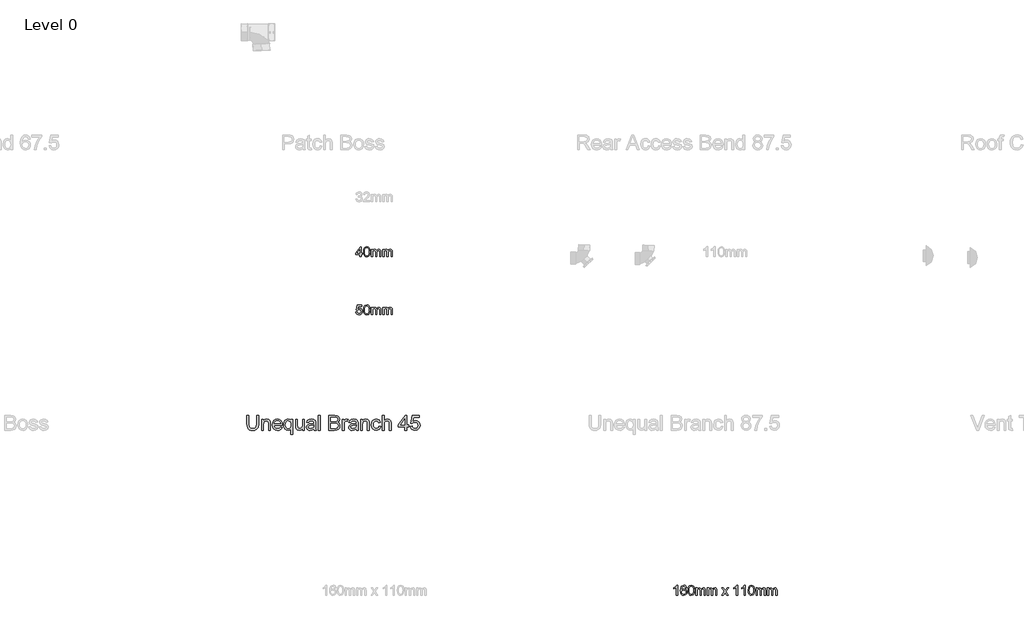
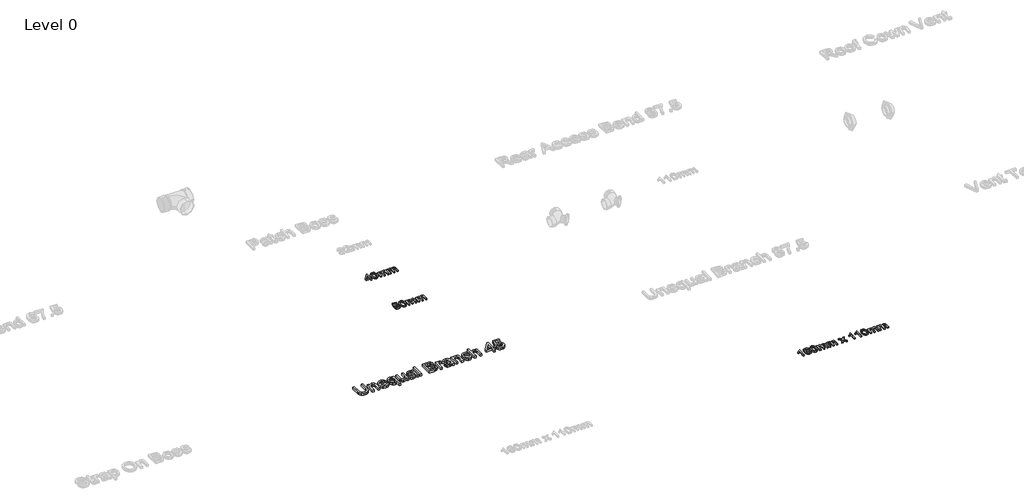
# One storey, part 6 of 28: 4 proxies.
"""IFC4 building model written with IfcOpenShell, lengths in millimetres."""

from ifc_helpers import new_model, si_unit, origin, origin_with_axes, place, context, project, spatial, polyline, outline, extrude, element, save

model = new_model("IFC4")

# Units and contexts
model_context = context("Model", 3, world=origin())
ifc_project = project(units=[si_unit("LENGTHUNIT", "METRE", prefix="MILLI")], contexts=[model_context])

# Site, building, storey
site = spatial("IfcSite", under=ifc_project)
building = spatial("IfcBuilding", under=site)
storey = spatial("IfcBuildingStorey", under=building, Name="Level 0", Elevation=0.0)

# Proxies
placement = place(None, origin())
element("IfcBuildingElementProxy", 1, Name="100mm Arial", ObjectType="100mm Arial", at=placement, inside=storey, context=model_context, shape_type="SweptSolid", body=[
    extrude(outline(polyline([(-6760.1908572, -162.2832696), (-6760.1908572, -139.2063465), (-6804.8062418, -139.2063465), (-6804.8062418, -126.8986542), (-6757.1139341, -65.3601927), (-6747.8831649, -65.3601927), (-6747.8831649, -126.8986542), (-6735.5754726, -126.8986542), (-6735.5754726, -139.2063465), (-6747.8831649, -139.2063465), (-6747.8831649, -162.2832696), (-6760.1908572, -162.2832696)]), holes=[polyline([(-6760.1908572, -126.8986542), (-6760.1908572, -88.8698081), (-6789.6620111, -126.8986542), (-6760.1908572, -126.8986542)])]), origin_with_axes(), (0.0, 0.0, 1.0), 15.0),
    extrude(outline(polyline([(-6724.8062418, -113.8457696), (-6721.1884534, -85.5164427), (-6710.4432611, -69.1823081), (-6692.4985495, -63.8217312), (-6678.1235495, -66.9948081), (-6668.1956649, -76.1414427), (-6662.4264341, -90.7087504), (-6660.1908572, -113.8457696), (-6663.772588, -142.0549042), (-6674.4817226, -158.4250965), (-6692.4985495, -163.8217312), (-6705.2870111, -161.4779812), (-6714.9985495, -154.4467312), (-6722.3543188, -137.7940869), (-6724.8062418, -113.8457696)]), holes=[polyline([(-6712.4985495, -113.8217312), (-6711.0562418, -133.1817071), (-6706.7293188, -144.386635), (-6700.2870111, -149.7321879), (-6692.4985495, -151.5140389), (-6684.710088, -149.7261783), (-6678.2677803, -144.3625965), (-6673.9408572, -133.151659), (-6672.4985495, -113.8217312), (-6673.8927803, -94.8974523), (-6678.0754726, -83.605385), (-6684.5057611, -77.9984139), (-6692.6427803, -76.1294235), (-6700.3471072, -77.7760581), (-6706.5370111, -82.7159619), (-6711.0081649, -94.7111542), (-6712.4985495, -113.8217312)])]), origin_with_axes(), (0.0, 0.0, 1.0), 15.0),
    extrude(outline(polyline([(-6646.3447034, -162.2832696), (-6646.3447034, -89.9755773), (-6634.0370111, -89.9755773), (-6634.0370111, -101.8746158), (-6625.5754726, -92.1270196), (-6613.5322034, -88.4371158), (-6601.2004726, -92.199135), (-6594.4216264, -102.7400004), (-6584.8182611, -92.0128369), (-6572.6908572, -88.4371158), (-6563.4390543, -89.9244956), (-6556.5971072, -94.386635), (-6552.3693428, -101.9437264), (-6550.960088, -112.7159619), (-6550.960088, -162.2832696), (-6563.2677803, -162.2832696), (-6563.2677803, -118.0044235), (-6564.4096072, -107.7279812), (-6568.5442226, -102.667885), (-6575.5754726, -100.7448081), (-6587.678838, -105.6726927), (-6592.4985495, -121.4659619), (-6592.4985495, -162.2832696), (-6604.8062418, -162.2832696), (-6604.8062418, -116.6342312), (-6607.6547995, -104.7111542), (-6616.9937418, -100.7448081), (-6626.1043188, -103.3890389), (-6632.1620111, -111.1294235), (-6634.0370111, -125.8169235), (-6634.0370111, -162.2832696), (-6646.3447034, -162.2832696)])), origin_with_axes(), (0.0, 0.0, 1.0), 15.0),
    extrude(outline(polyline([(-6532.4985495, -162.2832696), (-6532.4985495, -89.9755773), (-6520.1908572, -89.9755773), (-6520.1908572, -101.8746158), (-6511.7293188, -92.1270196), (-6499.6860495, -88.4371158), (-6487.3543188, -92.199135), (-6480.5754726, -102.7400004), (-6470.9721072, -92.0128369), (-6458.8447034, -88.4371158), (-6449.5929005, -89.9244956), (-6442.7509534, -94.386635), (-6438.5231889, -101.9437264), (-6437.1139341, -112.7159619), (-6437.1139341, -162.2832696), (-6449.4216264, -162.2832696), (-6449.4216264, -118.0044235), (-6450.5634534, -107.7279812), (-6454.6980688, -102.667885), (-6461.7293188, -100.7448081), (-6473.8326841, -105.6726927), (-6478.6523957, -121.4659619), (-6478.6523957, -162.2832696), (-6490.960088, -162.2832696), (-6490.960088, -116.6342312), (-6493.8086457, -104.7111542), (-6503.147588, -100.7448081), (-6512.2581649, -103.3890389), (-6518.3158572, -111.1294235), (-6520.1908572, -125.8169235), (-6520.1908572, -162.2832696), (-6532.4985495, -162.2832696)])), origin_with_axes(), (0.0, 0.0, 1.0), 15.0),
])
element("IfcBuildingElementProxy", 2, Name="100mm Arial", ObjectType="100mm Arial", at=placement, inside=storey, context=model_context, shape_type="SweptSolid", body=[
    extrude(outline(polyline([(-6800.1908572, -716.1294235), (-6787.8831649, -714.5909619), (-6781.6812418, -727.2712504), (-6768.8206649, -731.5140389), (-6759.9985495, -730.0386783), (-6753.3879726, -725.6125965), (-6749.2593668, -718.746611), (-6747.8831649, -709.9515389), (-6753.0394149, -695.3361542), (-6759.5147755, -691.3157215), (-6768.6283572, -689.9755773), (-6779.4336457, -692.1150004), (-6786.3447034, -697.667885), (-6798.6523957, -696.1294235), (-6787.8831649, -645.3601927), (-6740.1908572, -645.3601927), (-6740.1908572, -657.667885), (-6777.9312418, -657.667885), (-6783.1956649, -684.7832696), (-6774.4035976, -679.4467312), (-6765.1908572, -677.667885), (-6753.6914582, -679.8734139), (-6744.1451841, -686.4900004), (-6737.7179005, -696.574135), (-6735.5754726, -709.1823081), (-6737.5045591, -721.4900004), (-6743.2918188, -732.0188465), (-6754.3735495, -740.87101), (-6768.8687418, -743.8217312), (-6780.9570832, -741.9256975), (-6790.5874918, -736.2375965), (-6797.1890543, -727.418486), (-6800.1908572, -716.1294235)])), origin_with_axes(), (0.0, 0.0, 1.0), 15.0),
    extrude(outline(polyline([(-6724.8062418, -693.8457696), (-6721.1884534, -665.5164427), (-6710.4432611, -649.1823081), (-6692.4985495, -643.8217312), (-6678.1235495, -646.9948081), (-6668.1956649, -656.1414427), (-6662.4264341, -670.7087504), (-6660.1908572, -693.8457696), (-6663.772588, -722.0549042), (-6674.4817226, -738.4250965), (-6692.4985495, -743.8217312), (-6705.2870111, -741.4779812), (-6714.9985495, -734.4467312), (-6722.3543188, -717.7940869), (-6724.8062418, -693.8457696)]), holes=[polyline([(-6712.4985495, -693.8217312), (-6711.0562418, -713.1817071), (-6706.7293188, -724.386635), (-6700.2870111, -729.7321879), (-6692.4985495, -731.5140389), (-6684.710088, -729.7261783), (-6678.2677803, -724.3625965), (-6673.9408572, -713.151659), (-6672.4985495, -693.8217312), (-6673.8927803, -674.8974523), (-6678.0754726, -663.605385), (-6684.5057611, -657.9984139), (-6692.6427803, -656.1294235), (-6700.3471072, -657.7760581), (-6706.5370111, -662.7159619), (-6711.0081649, -674.7111542), (-6712.4985495, -693.8217312)])]), origin_with_axes(), (0.0, 0.0, 1.0), 15.0),
    extrude(outline(polyline([(-6646.3447034, -742.2832696), (-6646.3447034, -669.9755773), (-6634.0370111, -669.9755773), (-6634.0370111, -681.8746158), (-6625.5754726, -672.1270196), (-6613.5322034, -668.4371158), (-6601.2004726, -672.199135), (-6594.4216264, -682.7400004), (-6584.8182611, -672.0128369), (-6572.6908572, -668.4371158), (-6563.4390543, -669.9244956), (-6556.5971072, -674.386635), (-6552.3693428, -681.9437264), (-6550.960088, -692.7159619), (-6550.960088, -742.2832696), (-6563.2677803, -742.2832696), (-6563.2677803, -698.0044235), (-6564.4096072, -687.7279812), (-6568.5442226, -682.667885), (-6575.5754726, -680.7448081), (-6587.678838, -685.6726927), (-6592.4985495, -701.4659619), (-6592.4985495, -742.2832696), (-6604.8062418, -742.2832696), (-6604.8062418, -696.6342312), (-6607.6547995, -684.7111542), (-6616.9937418, -680.7448081), (-6626.1043188, -683.3890389), (-6632.1620111, -691.1294235), (-6634.0370111, -705.8169235), (-6634.0370111, -742.2832696), (-6646.3447034, -742.2832696)])), origin_with_axes(), (0.0, 0.0, 1.0), 15.0),
    extrude(outline(polyline([(-6532.4985495, -742.2832696), (-6532.4985495, -669.9755773), (-6520.1908572, -669.9755773), (-6520.1908572, -681.8746158), (-6511.7293188, -672.1270196), (-6499.6860495, -668.4371158), (-6487.3543188, -672.199135), (-6480.5754726, -682.7400004), (-6470.9721072, -672.0128369), (-6458.8447034, -668.4371158), (-6449.5929005, -669.9244956), (-6442.7509534, -674.386635), (-6438.5231889, -681.9437264), (-6437.1139341, -692.7159619), (-6437.1139341, -742.2832696), (-6449.4216264, -742.2832696), (-6449.4216264, -698.0044235), (-6450.5634534, -687.7279812), (-6454.6980688, -682.667885), (-6461.7293188, -680.7448081), (-6473.8326841, -685.6726927), (-6478.6523957, -701.4659619), (-6478.6523957, -742.2832696), (-6490.960088, -742.2832696), (-6490.960088, -696.6342312), (-6493.8086457, -684.7111542), (-6503.147588, -680.7448081), (-6512.2581649, -683.3890389), (-6518.3158572, -691.1294235), (-6520.1908572, -705.8169235), (-6520.1908572, -742.2832696), (-6532.4985495, -742.2832696)])), origin_with_axes(), (0.0, 0.0, 1.0), 15.0),
])
element("IfcBuildingElementProxy", 3, Name="100mm Arial", ObjectType="100mm Arial", at=placement, inside=storey, context=model_context, shape_type="SweptSolid", body=[
    extrude(outline(polyline([(-3591.7293188, -3542.2832696), (-3604.0370111, -3542.2832696), (-3604.0370111, -3465.5525004), (-3615.6956649, -3473.8577889), (-3628.6523957, -3480.0717312), (-3628.6523957, -3468.4371158), (-3610.6115303, -3456.9226927), (-3599.6620111, -3443.8217312), (-3591.7293188, -3443.8217312), (-3591.7293188, -3542.2832696)])), origin_with_axes(), (0.0, 0.0, 1.0), 15.0),
    extrude(outline(polyline([(-3499.4216264, -3469.9755773), (-3511.7293188, -3471.5140389), (-3516.3927803, -3461.2496158), (-3528.7245111, -3456.1294235), (-3539.8302803, -3459.1101927), (-3548.2317226, -3470.3000965), (-3551.7293188, -3492.2351927), (-3540.8759534, -3482.4154812), (-3527.4264341, -3479.2063465), (-3516.0562418, -3481.3998562), (-3506.5129726, -3487.980385), (-3500.0406168, -3498.0344715), (-3497.8831649, -3510.6486542), (-3501.9456649, -3527.6318273), (-3513.1235495, -3539.6510581), (-3529.2533572, -3543.8217312), (-3543.2166986, -3541.0573081), (-3554.3374918, -3532.7640389), (-3561.6121313, -3518.1246158), (-3564.0370111, -3496.3217312), (-3561.3447034, -3471.80851), (-3553.2677803, -3455.0476927), (-3542.2401361, -3446.6282215), (-3527.9552803, -3443.8217312), (-3517.1560014, -3445.55851), (-3508.5081649, -3450.7688465), (-3502.4504726, -3459.0440869), (-3499.4216264, -3469.9755773)]), holes=[polyline([(-3551.7293188, -3510.4563465), (-3548.8807611, -3521.1174042), (-3541.3086457, -3528.8577889), (-3530.2148957, -3531.5140389), (-3522.0929005, -3530.1378369), (-3515.7076841, -3526.0092312), (-3511.5700639, -3519.5188465), (-3510.1908572, -3511.0573081), (-3511.5520351, -3502.9353129), (-3515.6355688, -3496.7424042), (-3530.7197034, -3491.5140389), (-3545.6115303, -3496.7424042), (-3550.1998716, -3502.7850725), (-3551.7293188, -3510.4563465)])]), origin_with_axes(), (0.0, 0.0, 1.0), 15.0),
    extrude(outline(polyline([(-3487.1139341, -3493.8457696), (-3483.4961457, -3465.5164427), (-3472.7509534, -3449.1823081), (-3454.8062418, -3443.8217312), (-3440.4312418, -3446.9948081), (-3430.5033572, -3456.1414427), (-3424.7341264, -3470.7087504), (-3422.4985495, -3493.8457696), (-3426.0802803, -3522.0549042), (-3436.7894149, -3538.4250965), (-3454.8062418, -3543.8217312), (-3467.5947034, -3541.4779812), (-3477.3062418, -3534.4467312), (-3484.6620111, -3517.7940869), (-3487.1139341, -3493.8457696)]), holes=[polyline([(-3474.8062418, -3493.8217312), (-3473.3639341, -3513.1817071), (-3469.0370111, -3524.386635), (-3462.5947034, -3529.7321879), (-3454.8062418, -3531.5140389), (-3447.0177803, -3529.7261783), (-3440.5754726, -3524.3625965), (-3436.2485495, -3513.151659), (-3434.8062418, -3493.8217312), (-3436.2004726, -3474.8974523), (-3440.3831649, -3463.605385), (-3446.8134534, -3457.9984139), (-3454.9504726, -3456.1294235), (-3462.6547995, -3457.7760581), (-3468.8447034, -3462.7159619), (-3473.3158572, -3474.7111542), (-3474.8062418, -3493.8217312)])]), origin_with_axes(), (0.0, 0.0, 1.0), 15.0),
    extrude(outline(polyline([(-3408.6523957, -3542.2832696), (-3408.6523957, -3469.9755773), (-3396.3447034, -3469.9755773), (-3396.3447034, -3481.8746158), (-3387.8831649, -3472.1270196), (-3375.8398957, -3468.4371158), (-3363.5081649, -3472.199135), (-3356.7293188, -3482.7400004), (-3347.1259534, -3472.0128369), (-3334.9985495, -3468.4371158), (-3325.7467466, -3469.9244956), (-3318.9047995, -3474.386635), (-3314.6770351, -3481.9437264), (-3313.2677803, -3492.7159619), (-3313.2677803, -3542.2832696), (-3325.5754726, -3542.2832696), (-3325.5754726, -3498.0044235), (-3326.7172995, -3487.7279812), (-3330.8519149, -3482.667885), (-3337.8831649, -3480.7448081), (-3349.9865303, -3485.6726927), (-3354.8062418, -3501.4659619), (-3354.8062418, -3542.2832696), (-3367.1139341, -3542.2832696), (-3367.1139341, -3496.6342312), (-3369.9624918, -3484.7111542), (-3379.3014341, -3480.7448081), (-3388.4120111, -3483.3890389), (-3394.4697034, -3491.1294235), (-3396.3447034, -3505.8169235), (-3396.3447034, -3542.2832696), (-3408.6523957, -3542.2832696)])), origin_with_axes(), (0.0, 0.0, 1.0), 15.0),
    extrude(outline(polyline([(-3294.8062418, -3542.2832696), (-3294.8062418, -3469.9755773), (-3282.4985495, -3469.9755773), (-3282.4985495, -3481.8746158), (-3274.0370111, -3472.1270196), (-3261.9937418, -3468.4371158), (-3249.6620111, -3472.199135), (-3242.8831649, -3482.7400004), (-3233.2797995, -3472.0128369), (-3221.1523957, -3468.4371158), (-3211.9005928, -3469.9244956), (-3205.0586457, -3474.386635), (-3200.8308813, -3481.9437264), (-3199.4216264, -3492.7159619), (-3199.4216264, -3542.2832696), (-3211.7293188, -3542.2832696), (-3211.7293188, -3498.0044235), (-3212.8711457, -3487.7279812), (-3217.0057611, -3482.667885), (-3224.0370111, -3480.7448081), (-3236.1403764, -3485.6726927), (-3240.960088, -3501.4659619), (-3240.960088, -3542.2832696), (-3253.2677803, -3542.2832696), (-3253.2677803, -3496.6342312), (-3256.116338, -3484.7111542), (-3265.4552803, -3480.7448081), (-3274.5658572, -3483.3890389), (-3280.6235495, -3491.1294235), (-3282.4985495, -3505.8169235), (-3282.4985495, -3542.2832696), (-3294.8062418, -3542.2832696)])), origin_with_axes(), (0.0, 0.0, 1.0), 15.0),
    extrude(outline(polyline([(-3150.1908572, -3542.2832696), (-3123.8927803, -3505.9371158), (-3148.6523957, -3469.9755773), (-3133.8447034, -3469.9755773), (-3121.897588, -3487.2832696), (-3116.3206649, -3495.4563465), (-3111.4889341, -3488.7736542), (-3097.8831649, -3469.9755773), (-3083.0754726, -3469.9755773), (-3109.085088, -3505.9371158), (-3084.0370111, -3542.2832696), (-3098.8447034, -3542.2832696), (-3113.9168188, -3520.4323081), (-3116.6812418, -3516.4419235), (-3135.3831649, -3542.2832696), (-3150.1908572, -3542.2832696)])), origin_with_axes(), (0.0, 0.0, 1.0), 15.0),
    extrude(outline(polyline([(-2991.7293188, -3542.2832696), (-3004.0370111, -3542.2832696), (-3004.0370111, -3465.5525004), (-3015.6956649, -3473.8577889), (-3028.6523957, -3480.0717312), (-3028.6523957, -3468.4371158), (-3010.6115303, -3456.9226927), (-2999.6620111, -3443.8217312), (-2991.7293188, -3443.8217312), (-2991.7293188, -3542.2832696)])), origin_with_axes(), (0.0, 0.0, 1.0), 15.0),
    extrude(outline(polyline([(-2916.3447034, -3542.2832696), (-2928.6523957, -3542.2832696), (-2928.6523957, -3465.5525004), (-2940.3110495, -3473.8577889), (-2953.2677803, -3480.0717312), (-2953.2677803, -3468.4371158), (-2935.2269149, -3456.9226927), (-2924.2773957, -3443.8217312), (-2916.3447034, -3443.8217312), (-2916.3447034, -3542.2832696)])), origin_with_axes(), (0.0, 0.0, 1.0), 15.0),
    extrude(outline(polyline([(-2887.1139341, -3493.8457696), (-2883.4961457, -3465.5164427), (-2872.7509534, -3449.1823081), (-2854.8062418, -3443.8217312), (-2840.4312418, -3446.9948081), (-2830.5033572, -3456.1414427), (-2824.7341264, -3470.7087504), (-2822.4985495, -3493.8457696), (-2826.0802803, -3522.0549042), (-2836.7894149, -3538.4250965), (-2854.8062418, -3543.8217312), (-2867.5947034, -3541.4779812), (-2877.3062418, -3534.4467312), (-2884.6620111, -3517.7940869), (-2887.1139341, -3493.8457696)]), holes=[polyline([(-2874.8062418, -3493.8217312), (-2873.3639341, -3513.1817071), (-2869.0370111, -3524.386635), (-2862.5947034, -3529.7321879), (-2854.8062418, -3531.5140389), (-2847.0177803, -3529.7261783), (-2840.5754726, -3524.3625965), (-2836.2485495, -3513.151659), (-2834.8062418, -3493.8217312), (-2836.2004726, -3474.8974523), (-2840.3831649, -3463.605385), (-2846.8134534, -3457.9984139), (-2854.9504726, -3456.1294235), (-2862.6547995, -3457.7760581), (-2868.8447034, -3462.7159619), (-2873.3158572, -3474.7111542), (-2874.8062418, -3493.8217312)])]), origin_with_axes(), (0.0, 0.0, 1.0), 15.0),
    extrude(outline(polyline([(-2808.6523957, -3542.2832696), (-2808.6523957, -3469.9755773), (-2796.3447034, -3469.9755773), (-2796.3447034, -3481.8746158), (-2787.8831649, -3472.1270196), (-2775.8398957, -3468.4371158), (-2763.5081649, -3472.199135), (-2756.7293188, -3482.7400004), (-2747.1259534, -3472.0128369), (-2734.9985495, -3468.4371158), (-2725.7467466, -3469.9244956), (-2718.9047995, -3474.386635), (-2714.6770351, -3481.9437264), (-2713.2677803, -3492.7159619), (-2713.2677803, -3542.2832696), (-2725.5754726, -3542.2832696), (-2725.5754726, -3498.0044235), (-2726.7172995, -3487.7279812), (-2730.8519149, -3482.667885), (-2737.8831649, -3480.7448081), (-2749.9865303, -3485.6726927), (-2754.8062418, -3501.4659619), (-2754.8062418, -3542.2832696), (-2767.1139341, -3542.2832696), (-2767.1139341, -3496.6342312), (-2769.9624918, -3484.7111542), (-2779.3014341, -3480.7448081), (-2788.4120111, -3483.3890389), (-2794.4697034, -3491.1294235), (-2796.3447034, -3505.8169235), (-2796.3447034, -3542.2832696), (-2808.6523957, -3542.2832696)])), origin_with_axes(), (0.0, 0.0, 1.0), 15.0),
    extrude(outline(polyline([(-2694.8062418, -3542.2832696), (-2694.8062418, -3469.9755773), (-2682.4985495, -3469.9755773), (-2682.4985495, -3481.8746158), (-2674.0370111, -3472.1270196), (-2661.9937418, -3468.4371158), (-2649.6620111, -3472.199135), (-2642.8831649, -3482.7400004), (-2633.2797995, -3472.0128369), (-2621.1523957, -3468.4371158), (-2611.9005928, -3469.9244956), (-2605.0586457, -3474.386635), (-2600.8308813, -3481.9437264), (-2599.4216264, -3492.7159619), (-2599.4216264, -3542.2832696), (-2611.7293188, -3542.2832696), (-2611.7293188, -3498.0044235), (-2612.8711457, -3487.7279812), (-2617.0057611, -3482.667885), (-2624.0370111, -3480.7448081), (-2636.1403764, -3485.6726927), (-2640.960088, -3501.4659619), (-2640.960088, -3542.2832696), (-2653.2677803, -3542.2832696), (-2653.2677803, -3496.6342312), (-2656.116338, -3484.7111542), (-2665.4552803, -3480.7448081), (-2674.5658572, -3483.3890389), (-2680.6235495, -3491.1294235), (-2682.4985495, -3505.8169235), (-2682.4985495, -3542.2832696), (-2694.8062418, -3542.2832696)])), origin_with_axes(), (0.0, 0.0, 1.0), 15.0),
])
element("IfcBuildingElementProxy", 4, Name="150mm Arial", ObjectType="150mm Arial", at=placement, inside=storey, context=model_context, shape_type="SweptSolid", body=[
    extrude(outline(polyline([(-7790.6049127, -1747.0931704), (-7772.1433743, -1747.0931704), (-7772.1433743, -1832.2974973), (-7777.1553935, -1867.6160069), (-7784.1776291, -1879.4699733), (-7795.2202973, -1888.8900454), (-7810.3104416, -1895.0423891), (-7829.475105, -1897.0931704), (-7848.2205978, -1895.3083146), (-7863.2070762, -1889.9537473), (-7874.4390473, -1881.2142641), (-7881.9210185, -1869.2746608), (-7886.1262469, -1853.2605382), (-7887.5279897, -1832.2974973), (-7887.5279897, -1747.0931704), (-7869.0664512, -1747.0931704), (-7869.0664512, -1831.6484589), (-7865.4246243, -1859.7914877), (-7860.475706, -1867.7917882), (-7852.912605, -1873.7277858), (-7831.2058743, -1878.6316319), (-7812.428831, -1876.2067521), (-7799.943855, -1868.9321127), (-7792.9396483, -1854.7614396), (-7790.6049127, -1831.6484589), (-7790.6049127, -1747.0931704)])), origin_with_axes(), (0.0, 0.0, 1.0), 25.0),
    extrude(outline(polyline([(-7742.1433743, -1894.7854781), (-7742.1433743, -1786.3239396), (-7723.6818358, -1786.3239396), (-7723.6818358, -1801.4681704), (-7709.5652493, -1788.3792281), (-7690.2924127, -1784.0162473), (-7672.8585185, -1787.5318723), (-7660.95948, -1796.7626415), (-7655.4246243, -1810.3383627), (-7654.4510666, -1828.1869204), (-7654.4510666, -1894.7854781), (-7672.912605, -1894.7854781), (-7672.912605, -1830.6749012), (-7675.0400089, -1814.3407665), (-7682.5580377, -1805.7049492), (-7695.2323166, -1802.4777858), (-7706.0451171, -1804.2896848), (-7715.2623647, -1809.7253819), (-7721.576968, -1820.2271848), (-7723.6818358, -1837.2374012), (-7723.6818358, -1894.7854781), (-7742.1433743, -1894.7854781)])), origin_with_axes(), (0.0, 0.0, 1.0), 25.0),
    extrude(outline(polyline([(-7553.1289512, -1862.4777858), (-7535.0279897, -1864.7854781), (-7541.5499247, -1878.4243002), (-7551.9570762, -1888.6196127), (-7566.015069, -1894.974781), (-7583.4895281, -1897.0931704), (-7605.1511868, -1893.4378218), (-7621.818855, -1882.4717762), (-7632.4468598, -1864.9071728), (-7635.9895281, -1841.4561512), (-7632.4108022, -1817.2163675), (-7621.6746243, -1799.0883627), (-7605.2323166, -1787.7842762), (-7584.5352012, -1784.0162473), (-7564.4826171, -1787.7752617), (-7548.45948, -1799.052305), (-7537.9531699, -1817.1442521), (-7534.4510666, -1841.3479781), (-7534.5592397, -1846.3239396), (-7617.5279897, -1846.3239396), (-7614.3323767, -1860.1430502), (-7606.9089993, -1870.302305), (-7596.1953574, -1876.5493002), (-7583.1289512, -1878.6316319), (-7565.0279897, -1874.7734589), (-7553.1289512, -1862.4777858)]), holes=[polyline([(-7617.5279897, -1827.8624012), (-7552.912605, -1827.8624012), (-7555.4096002, -1818.1087954), (-7560.304432, -1811.1316319), (-7571.0676531, -1804.6412473), (-7584.6073166, -1802.4777858), (-7597.0517276, -1804.2040478), (-7607.3416916, -1809.3828339), (-7614.4946363, -1817.4552497), (-7617.5279897, -1827.8624012)])]), origin_with_axes(), (0.0, 0.0, 1.0), 25.0),
    extrude(outline(polyline([(-7449.0664512, -1936.3239396), (-7449.0664512, -1880.0018242), (-7460.7852012, -1892.2253819), (-7476.7948166, -1897.0931704), (-7494.3458983, -1893.2485189), (-7509.2827973, -1881.7145646), (-7519.5051531, -1863.4828939), (-7522.912605, -1839.5450935), (-7517.5039512, -1810.302305), (-7510.8783502, -1798.9261031), (-7501.818855, -1790.6869204), (-7491.0466195, -1785.6839156), (-7479.2827973, -1784.0162473), (-7462.1193358, -1789.1905262), (-7449.0664512, -1804.7133627), (-7449.0664512, -1786.3239396), (-7430.6049127, -1786.3239396), (-7430.6049127, -1936.3239396), (-7449.0664512, -1936.3239396)]), holes=[polyline([(-7504.4510666, -1840.5547089), (-7502.3732421, -1857.2133627), (-7496.1397685, -1869.1124012), (-7487.0036507, -1876.2518242), (-7476.2178935, -1878.6316319), (-7465.8828574, -1876.3690117), (-7457.0892877, -1869.5811512), (-7451.0721603, -1858.1688915), (-7449.0664512, -1842.0330742), (-7451.1803334, -1824.7839757), (-7457.52198, -1812.41168), (-7466.7121844, -1804.9612593), (-7477.3717397, -1802.4777858), (-7487.8329776, -1804.7899853), (-7496.5724608, -1811.7265839), (-7502.4814151, -1823.5580141), (-7504.4510666, -1840.5547089)])]), origin_with_axes(), (0.0, 0.0, 1.0), 25.0),
    extrude(outline(polyline([(-7333.6818358, -1894.7854781), (-7333.6818358, -1876.1436512), (-7348.1409704, -1891.8557906), (-7366.9991435, -1897.0931704), (-7384.3609223, -1893.4152858), (-7396.3320762, -1884.1845165), (-7401.8308743, -1870.5907665), (-7402.912605, -1853.427305), (-7402.912605, -1786.3239396), (-7384.4510666, -1786.3239396), (-7384.4510666, -1844.7374012), (-7383.3332781, -1863.5595165), (-7376.0315954, -1874.6111992), (-7362.2755858, -1878.6316319), (-7346.8609223, -1874.521055), (-7336.6746243, -1863.3251415), (-7333.6818358, -1842.7542281), (-7333.6818358, -1786.3239396), (-7315.2202973, -1786.3239396), (-7315.2202973, -1894.7854781), (-7333.6818358, -1894.7854781)])), origin_with_axes(), (0.0, 0.0, 1.0), 25.0),
    extrude(outline(polyline([(-7220.6049127, -1880.9393242), (-7238.507557, -1893.4513435), (-7258.2852012, -1897.0931704), (-7273.7133863, -1894.9026656), (-7285.0940954, -1888.3311512), (-7292.1118238, -1878.3521848), (-7294.4510666, -1865.9393242), (-7290.9174127, -1851.3359589), (-7281.632557, -1840.7349973), (-7268.7058743, -1834.677305), (-7252.7323166, -1831.9008627), (-7220.7130858, -1825.5547089), (-7220.6049127, -1821.4441319), (-7221.8759464, -1813.2049492), (-7225.6890473, -1807.8143242), (-7234.2166916, -1803.8119204), (-7246.0977012, -1802.4777858), (-7264.7755858, -1806.0294685), (-7273.6818358, -1818.6316319), (-7292.1433743, -1816.3239396), (-7284.1565954, -1798.2950935), (-7268.0748647, -1787.7301896), (-7243.7178935, -1784.0162473), (-7221.3440954, -1787.2974973), (-7208.7058743, -1795.53668), (-7203.0448166, -1808.0667281), (-7202.1433743, -1824.2205742), (-7202.1433743, -1847.1893242), (-7201.2058743, -1879.2626415), (-7197.5279897, -1894.7854781), (-7215.9895281, -1894.7854781), (-7220.6049127, -1880.9393242)]), holes=[polyline([(-7220.6049127, -1844.0162473), (-7250.3885666, -1849.677305), (-7266.27198, -1852.6700935), (-7273.4654897, -1857.5378819), (-7275.9895281, -1864.6412473), (-7270.49073, -1874.6292281), (-7254.3549127, -1878.6316319), (-7235.6770281, -1874.2145646), (-7223.6337589, -1863.5234589), (-7220.7130858, -1849.2446127), (-7220.6049127, -1844.0162473)])]), origin_with_axes(), (0.0, 0.0, 1.0), 25.0),
    extrude(outline(polyline([(-7176.7587589, -1894.7854781), (-7176.7587589, -1747.0931704), (-7158.2972204, -1747.0931704), (-7158.2972204, -1894.7854781), (-7176.7587589, -1894.7854781)])), origin_with_axes(), (0.0, 0.0, 1.0), 25.0),
    extrude(outline(polyline([(-7070.6049127, -1894.7854781), (-7070.6049127, -1747.0931704), (-7014.2467397, -1747.0931704), (-6986.6445762, -1751.4381223), (-6977.3687348, -1756.950442), (-6970.3464993, -1764.7974973), (-6964.4510666, -1783.6917281), (-6969.4089993, -1800.9453339), (-6984.3909704, -1814.0162473), (-6973.9297324, -1819.4789877), (-6966.1998647, -1827.7902858), (-6961.4267276, -1838.4002617), (-6959.835682, -1850.7590358), (-6964.1806339, -1870.6087954), (-6974.943855, -1884.7434108), (-6991.007557, -1892.2434108), (-7014.679432, -1894.7854781), (-7070.6049127, -1894.7854781)]), holes=[polyline([(-7052.1433743, -1876.3239396), (-7014.2827973, -1876.3239396), (-7000.5808743, -1875.6027858), (-6988.9883262, -1871.5823531), (-6981.3080377, -1863.3792281), (-6978.2972204, -1850.9393242), (-6981.8308743, -1836.5883627), (-6993.2791916, -1828.0246608), (-7016.085682, -1825.5547089), (-7052.1433743, -1825.5547089), (-7052.1433743, -1876.3239396)]), polyline([(-7052.1433743, -1807.0931704), (-7018.429432, -1807.0931704), (-6998.741932, -1805.5066319), (-6986.89698, -1798.6736992), (-6982.912605, -1786.6484589), (-6986.6265473, -1774.6051896), (-6997.2635666, -1767.4837954), (-7020.9895281, -1765.5547089), (-7052.1433743, -1765.5547089), (-7052.1433743, -1807.0931704)])]), origin_with_axes(), (0.0, 0.0, 1.0), 25.0),
    extrude(outline(polyline([(-6936.7587589, -1894.7854781), (-6936.7587589, -1786.3239396), (-6920.6049127, -1786.3239396), (-6920.6049127, -1802.3696127), (-6909.1385666, -1787.5859589), (-6897.600105, -1784.0162473), (-6879.0664512, -1789.7133627), (-6885.2323166, -1806.2638435), (-6898.2130858, -1802.4777858), (-6908.6517877, -1806.1196127), (-6915.304432, -1816.2157665), (-6918.2972204, -1837.7782665), (-6918.2972204, -1894.7854781), (-6936.7587589, -1894.7854781)])), origin_with_axes(), (0.0, 0.0, 1.0), 25.0),
    extrude(outline(polyline([(-6798.2972204, -1880.9393242), (-6816.1998647, -1893.4513435), (-6835.9775089, -1897.0931704), (-6851.405694, -1894.9026656), (-6862.7864031, -1888.3311512), (-6869.8041315, -1878.3521848), (-6872.1433743, -1865.9393242), (-6868.6097204, -1851.3359589), (-6859.3248647, -1840.7349973), (-6846.398182, -1834.677305), (-6830.4246243, -1831.9008627), (-6798.4053935, -1825.5547089), (-6798.2972204, -1821.4441319), (-6799.5682541, -1813.2049492), (-6803.381355, -1807.8143242), (-6811.9089993, -1803.8119204), (-6823.7900089, -1802.4777858), (-6842.4678935, -1806.0294685), (-6851.3741435, -1818.6316319), (-6869.835682, -1816.3239396), (-6861.8489031, -1798.2950935), (-6845.7671723, -1787.7301896), (-6821.4102012, -1784.0162473), (-6799.0364031, -1787.2974973), (-6786.398182, -1795.53668), (-6780.7371243, -1808.0667281), (-6779.835682, -1824.2205742), (-6779.835682, -1847.1893242), (-6778.898182, -1879.2626415), (-6775.2202973, -1894.7854781), (-6793.6818358, -1894.7854781), (-6798.2972204, -1880.9393242)]), holes=[polyline([(-6798.2972204, -1844.0162473), (-6828.0808743, -1849.677305), (-6843.9642877, -1852.6700935), (-6851.1577973, -1857.5378819), (-6853.6818358, -1864.6412473), (-6848.1830377, -1874.6292281), (-6832.0472204, -1878.6316319), (-6813.3693358, -1874.2145646), (-6801.3260666, -1863.5234589), (-6798.4053935, -1849.2446127), (-6798.2972204, -1844.0162473)])]), origin_with_axes(), (0.0, 0.0, 1.0), 25.0),
    extrude(outline(polyline([(-6754.4510666, -1894.7854781), (-6754.4510666, -1786.3239396), (-6735.9895281, -1786.3239396), (-6735.9895281, -1801.4681704), (-6721.8729416, -1788.3792281), (-6702.600105, -1784.0162473), (-6685.1662108, -1787.5318723), (-6673.2671723, -1796.7626415), (-6667.7323166, -1810.3383627), (-6666.7587589, -1828.1869204), (-6666.7587589, -1894.7854781), (-6685.2202973, -1894.7854781), (-6685.2202973, -1830.6749012), (-6687.3477012, -1814.3407665), (-6694.86573, -1805.7049492), (-6707.5400089, -1802.4777858), (-6718.3528094, -1804.2896848), (-6727.570057, -1809.7253819), (-6733.8846603, -1820.2271848), (-6735.9895281, -1837.2374012), (-6735.9895281, -1894.7854781), (-6754.4510666, -1894.7854781)])), origin_with_axes(), (0.0, 0.0, 1.0), 25.0),
    extrude(outline(polyline([(-6572.1433743, -1855.5547089), (-6553.6818358, -1857.8624012), (-6558.8290714, -1874.2821728), (-6568.5015473, -1886.6905262), (-6581.788807, -1894.4925093), (-6597.7803935, -1897.0931704), (-6617.4183142, -1893.4648651), (-6632.7743839, -1882.5799492), (-6642.6857421, -1864.9161872), (-6645.9895281, -1840.9513435), (-6640.3464993, -1810.2842762), (-6633.225105, -1798.7863795), (-6623.14698, -1790.5787473), (-6611.0901892, -1785.6568723), (-6598.0327973, -1784.0162473), (-6582.4333382, -1786.2698531), (-6569.9618839, -1793.0306704), (-6561.015069, -1803.9381223), (-6555.9895281, -1818.6316319), (-6574.4510666, -1820.9393242), (-6583.0147685, -1807.1111992), (-6597.8885666, -1802.4777858), (-6609.8191555, -1804.7584348), (-6619.288807, -1811.6003819), (-6625.468194, -1823.3732185), (-6627.5279897, -1840.4465358), (-6625.5132661, -1857.7497209), (-6619.4690954, -1869.5631223), (-6610.170718, -1876.3645045), (-6598.3933743, -1878.6316319), (-6588.8335786, -1877.2163675), (-6580.9955377, -1872.9705742), (-6575.2939151, -1865.786079), (-6572.1433743, -1855.5547089)])), origin_with_axes(), (0.0, 0.0, 1.0), 25.0),
    extrude(outline(polyline([(-6537.5279897, -1894.7854781), (-6537.5279897, -1747.0931704), (-6519.0664512, -1747.0931704), (-6519.0664512, -1801.396055), (-6504.6704175, -1788.3611992), (-6486.9390473, -1784.0162473), (-6466.2058743, -1788.7578339), (-6453.6217397, -1801.864805), (-6449.835682, -1826.1316319), (-6449.835682, -1894.7854781), (-6468.2972204, -1894.7854781), (-6468.2972204, -1828.0426896), (-6469.7665714, -1816.4861992), (-6474.1746243, -1808.5715358), (-6481.2779897, -1804.0012233), (-6490.8332781, -1802.4777858), (-6505.95948, -1806.5883627), (-6516.0556339, -1817.7301896), (-6519.0664512, -1837.1652858), (-6519.0664512, -1894.7854781), (-6537.5279897, -1894.7854781)])), origin_with_axes(), (0.0, 0.0, 1.0), 25.0),
    extrude(outline(polyline([(-6311.3741435, -1894.7854781), (-6311.3741435, -1860.1700935), (-6378.2972204, -1860.1700935), (-6378.2972204, -1841.708555), (-6306.7587589, -1749.4008627), (-6292.912605, -1749.4008627), (-6292.912605, -1841.708555), (-6274.4510666, -1841.708555), (-6274.4510666, -1860.1700935), (-6292.912605, -1860.1700935), (-6292.912605, -1894.7854781), (-6311.3741435, -1894.7854781)]), holes=[polyline([(-6311.3741435, -1841.708555), (-6311.3741435, -1784.6652858), (-6355.5808743, -1841.708555), (-6311.3741435, -1841.708555)])]), origin_with_axes(), (0.0, 0.0, 1.0), 25.0),
    extrude(outline(polyline([(-6258.2972204, -1855.5547089), (-6239.835682, -1853.2470165), (-6236.4462589, -1864.3302497), (-6230.5327973, -1872.2674492), (-6222.1223406, -1877.0405863), (-6211.241932, -1878.6316319), (-6198.0087589, -1876.4185911), (-6188.0928935, -1869.7794685), (-6181.8999848, -1859.4804901), (-6179.835682, -1846.2878819), (-6181.7692757, -1833.8660069), (-6187.570057, -1824.364805), (-6197.2830978, -1818.334156), (-6210.9534704, -1816.3239396), (-6227.1614031, -1819.5330742), (-6237.5279897, -1827.8624012), (-6255.9895281, -1825.5547089), (-6239.835682, -1749.4008627), (-6168.2972204, -1749.4008627), (-6168.2972204, -1767.8624012), (-6224.9077973, -1767.8624012), (-6232.804432, -1808.5354781), (-6219.616331, -1800.5306704), (-6205.7972204, -1797.8624012), (-6188.5481219, -1801.1706944), (-6174.2287108, -1811.0955742), (-6164.5877853, -1826.2217762), (-6161.3741435, -1845.1340358), (-6164.2677733, -1863.5955742), (-6172.9486627, -1879.3888435), (-6189.5712589, -1892.6670887), (-6211.3140473, -1897.0931704), (-6229.4465594, -1894.2491199), (-6243.8921723, -1885.7169685), (-6253.7945161, -1872.4883026), (-6258.2972204, -1855.5547089)])), origin_with_axes(), (0.0, 0.0, 1.0), 25.0),
])

save(model, "model.ifc")
